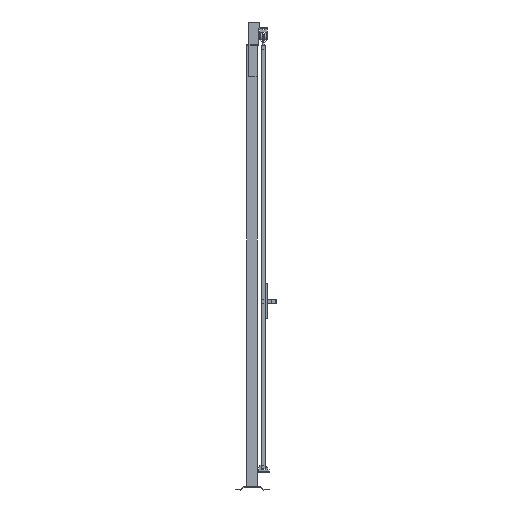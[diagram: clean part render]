
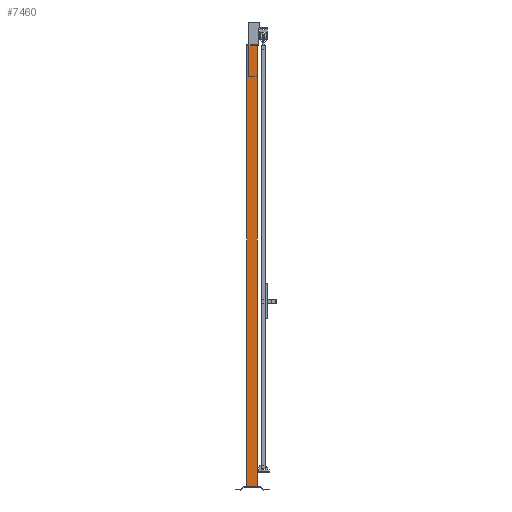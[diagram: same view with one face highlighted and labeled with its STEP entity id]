
A CAD part, left-side view. The second image highlights one B-rep face of the part: STEP entity #7460.
In plain terms, the highlighted planar face has unit normal (-1, 0, 0).
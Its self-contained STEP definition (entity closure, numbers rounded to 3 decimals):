
#644=FACE_OUTER_BOUND('',#1172,.T.);
#1172=EDGE_LOOP('',(#4455,#4456,#4457,#4458));
#1745=VERTEX_POINT('',#15445);
#1746=VERTEX_POINT('',#15447);
#1749=VERTEX_POINT('',#15454);
#1750=VERTEX_POINT('',#15456);
#2849=EDGE_CURVE('',#1745,#1746,#8655,.T.);
#2853=EDGE_CURVE('',#1749,#1750,#8659,.T.);
#2855=EDGE_CURVE('',#1746,#1749,#8661,.T.);
#2857=EDGE_CURVE('',#1745,#1750,#8663,.T.);
#4455=ORIENTED_EDGE('',*,*,#2857,.T.);
#4456=ORIENTED_EDGE('',*,*,#2853,.F.);
#4457=ORIENTED_EDGE('',*,*,#2855,.F.);
#4458=ORIENTED_EDGE('',*,*,#2849,.F.);
#6988=PLANE('',#11228);
#7460=ADVANCED_FACE('',(#644),#6988,.F.);
#8655=LINE('',#15448,#10039);
#8659=LINE('',#15457,#10043);
#8661=LINE('',#15460,#10045);
#8663=LINE('',#15463,#10047);
#10039=VECTOR('',#12279,1.);
#10043=VECTOR('',#12285,1.);
#10045=VECTOR('',#12289,1.);
#10047=VECTOR('',#12293,1.);
#11228=AXIS2_PLACEMENT_3D('',#15462,#12291,#12292);
#12279=DIRECTION('',(0.,-1.,0.));
#12285=DIRECTION('',(0.,1.,0.));
#12289=DIRECTION('',(0.,0.,-1.));
#12291=DIRECTION('center_axis',(1.,0.,0.));
#12292=DIRECTION('ref_axis',(0.,0.,-1.));
#12293=DIRECTION('',(0.,0.,-1.));
#15445=CARTESIAN_POINT('',(-30.,30.,2520.));
#15447=CARTESIAN_POINT('',(-30.,-30.,2520.));
#15448=CARTESIAN_POINT('',(-30.,0.,2520.));
#15454=CARTESIAN_POINT('',(-30.,-30.,20.));
#15456=CARTESIAN_POINT('',(-30.,30.,20.));
#15457=CARTESIAN_POINT('',(-30.,0.,20.));
#15460=CARTESIAN_POINT('',(-30.,-30.,1270.));
#15462=CARTESIAN_POINT('Origin',(-30.,0.,
1270.));
#15463=CARTESIAN_POINT('',(-30.,30.,1270.));
